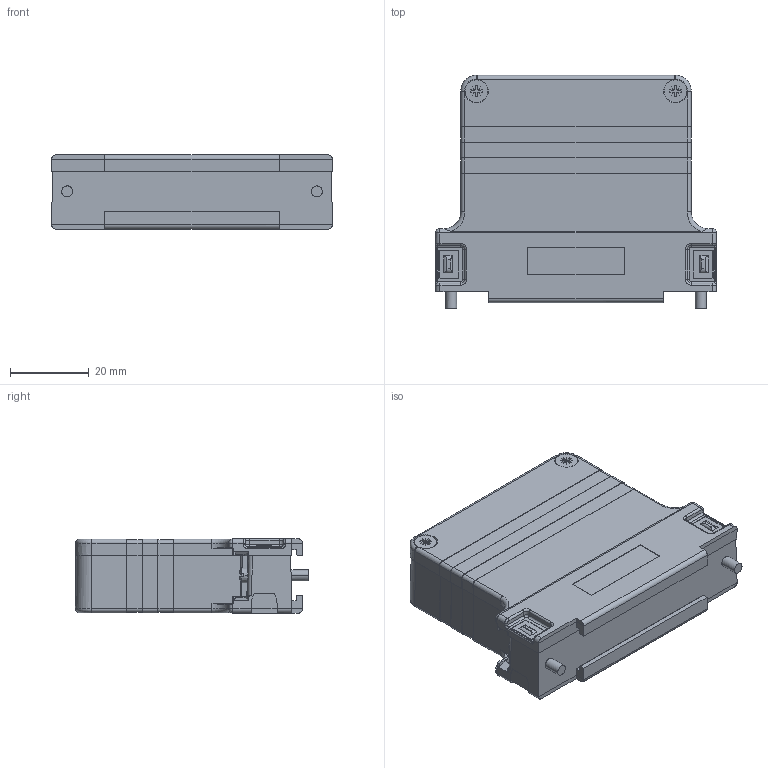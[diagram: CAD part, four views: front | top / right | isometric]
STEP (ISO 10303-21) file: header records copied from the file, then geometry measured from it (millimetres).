
FILE_DESCRIPTION(/* description */ (''),/* implementation_level */ '2;1');
FILE_NAME(/* name */ '100922618ugm000_a.stp',/* time_stamp */ '2022-04-26T13:47:44+02:00',/* author */ (''),/* organization */ (''),/* preprocessor_version */ 'ST-DEVELOPER v16.7',/* originating_system */ 'SIEMENS PLM Software NX 1911',/* authorisation */ '');
FILE_SCHEMA (('AUTOMOTIVE_DESIGN { 1 0 10303 214 3 1 1 1 }'));
Length unit declared in the file: millimetre
Products named in the file (1): 100922618ugm000_a
Bounding box: 71.4 x 59.33 x 18.9 mm (x, y, z)
Volume: 63353.6 mm3; surface area: 12791 mm2
Topology: 1 solids, 1 shells, 613 faces, 1623 edges, 1014 vertices
Faces by surface type: plane 300, cylinder 170, cone 58, torus 40, bspline 38, sphere 7
Entity records: 24349 total; most frequent: CARTESIAN_POINT 5326, ORIENTED_EDGE 3218, DIRECTION 2932, EDGE_CURVE 1609, VERTEX_POINT 1012, AXIS2_PLACEMENT_3D 996, LINE 940, VECTOR 940
